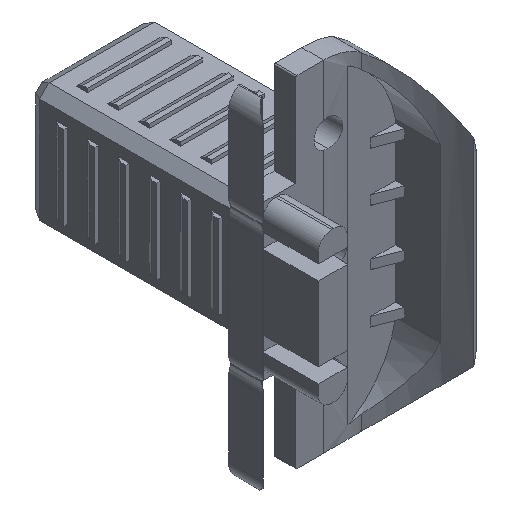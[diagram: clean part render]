
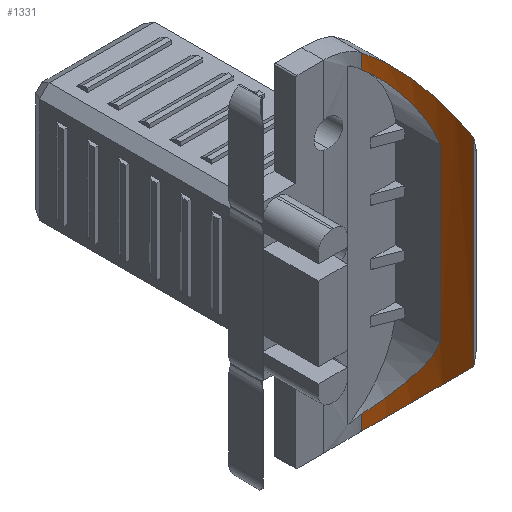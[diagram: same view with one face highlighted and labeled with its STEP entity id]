
A CAD part, isometric view. The second image highlights one B-rep face of the part: STEP entity #1331.
In plain terms, the highlighted cylindrical face has radius 18 mm (diameter 36 mm), a partial arc.
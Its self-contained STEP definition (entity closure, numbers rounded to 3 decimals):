
#116 = CARTESIAN_POINT ( 'NONE',  ( 4.5, 3.218, -26.468 ) ) ;
#179 = FACE_OUTER_BOUND ( 'NONE', #8314, .T. ) ;
#291 = CARTESIAN_POINT ( 'NONE',  ( 12.088, -7.25, -16. ) ) ;
#362 = CARTESIAN_POINT ( 'NONE',  ( 7.938, 0.339, -20.493 ) ) ;
#366 = ORIENTED_EDGE ( 'NONE', *, *, #4008, .F. ) ;
#425 = CARTESIAN_POINT ( 'NONE',  ( 6.053, 2.115, -22.755 ) ) ;
#510 = CARTESIAN_POINT ( 'NONE',  ( 9.574, -1.743, 17.409 ) ) ;
#542 = CARTESIAN_POINT ( 'NONE',  ( 8.706, -0.572, 19.215 ) ) ;
#630 = CARTESIAN_POINT ( 'NONE',  ( 4.5, 3.218, 24.08 ) ) ;
#682 = VERTEX_POINT ( 'NONE', #4405 ) ;
#1121 = EDGE_CURVE ( 'NONE', #5224, #5425, #9151, .T. ) ;
#1142 = CARTESIAN_POINT ( 'NONE',  ( 9.374, -1.454, -17.88 ) ) ;
#1205 = CARTESIAN_POINT ( 'NONE',  ( 4.91, 2.952, 23.763 ) ) ;
#1228 = CARTESIAN_POINT ( 'NONE',  ( 9.377, -1.459, 17.872 ) ) ;
#1254 = CARTESIAN_POINT ( 'NONE',  ( 6.039, 2.106, 22.738 ) ) ;
#1331 = ADVANCED_FACE ( 'NONE', ( #179 ), #4872, .F. ) ;
#1469 = CARTESIAN_POINT ( 'NONE',  ( 4.5, 3.218, 0. ) ) ;
#1538 = EDGE_CURVE ( 'NONE', #7077, #2773, #4990, .T. ) ;
#1561 = CARTESIAN_POINT ( 'NONE',  ( 12.088, -7.25, 16. ) ) ;
#1585 = CARTESIAN_POINT ( 'NONE',  ( 4.5, 3.218, 26.468 ) ) ;
#1738 = CARTESIAN_POINT ( 'NONE',  ( 10.55, -3.358, -13.853 ) ) ;
#1778 = CARTESIAN_POINT ( 'NONE',  ( 10.462, -3.195, -14.413 ) ) ;
#1812 = CARTESIAN_POINT ( 'NONE',  ( 8.938, -0.866, -18.785 ) ) ;
#1884 = CARTESIAN_POINT ( 'NONE',  ( 10.08, -2.532, -15.968 ) ) ;
#1903 = CARTESIAN_POINT ( 'NONE',  ( 6.385, 1.817, 22.38 ) ) ;
#1963 = CARTESIAN_POINT ( 'NONE',  ( 4.5, 3.218, 24.08 ) ) ;
#2084 = VERTEX_POINT ( 'NONE', #5272 ) ;
#2246 = DIRECTION ( 'NONE',  ( 0., 0., 1. ) ) ;
#2369 = DIRECTION ( 'NONE',  ( 1., 0., 0. ) ) ;
#2423 =( BOUNDED_CURVE ( )  B_SPLINE_CURVE ( 3, ( #1585, #3721, #8763, #1561 ),
 .UNSPECIFIED., .F., .F. ) 
 B_SPLINE_CURVE_WITH_KNOTS ( ( 4, 4 ),
 ( 0.576, 1.311 ),
 .UNSPECIFIED. ) 
 CURVE ( )  GEOMETRIC_REPRESENTATION_ITEM ( )  RATIONAL_B_SPLINE_CURVE ( ( 1., 0.956, 0.956, 1. ) ) 
 REPRESENTATION_ITEM ( '' )  );
#2579 = CARTESIAN_POINT ( 'NONE',  ( 10.082, -2.535, 15.964 ) ) ;
#2747 = DIRECTION ( 'NONE',  ( 0., 0., 1. ) ) ;
#2773 = VERTEX_POINT ( 'NONE', #116 ) ;
#2789 = EDGE_CURVE ( 'NONE', #2084, #4004, #2423, .T. ) ;
#2867 = VECTOR ( 'NONE', #8037, 1000. ) ;
#2929 = CARTESIAN_POINT ( 'NONE',  ( 10.55, -3.358, -13.853 ) ) ;
#3061 = CARTESIAN_POINT ( 'NONE',  ( 4.5, 3.218, -26.468 ) ) ;
#3095 =( BOUNDED_CURVE ( )  B_SPLINE_CURVE ( 3, ( #291, #6640, #8834, #3061 ),
 .UNSPECIFIED., .F., .T. ) 
 B_SPLINE_CURVE_WITH_KNOTS ( ( 4, 4 ),
 ( 1.831, 2.565 ),
 .UNSPECIFIED. ) 
 CURVE ( )  GEOMETRIC_REPRESENTATION_ITEM ( )  RATIONAL_B_SPLINE_CURVE ( ( 1., 0.956, 0.956, 1. ) ) 
 REPRESENTATION_ITEM ( '' )  );
#3155 = EDGE_CURVE ( 'NONE', #7077, #8516, #3305, .T. ) ;
#3267 = ORIENTED_EDGE ( 'NONE', *, *, #3155, .F. ) ;
#3305 = B_SPLINE_CURVE_WITH_KNOTS ( 'NONE', 3,
 ( #3753, #4482, #425, #7527, #362, #6104, #1812, #1142, #6809, #6167, #1884, #6062, #1778, #1738 ),
 .UNSPECIFIED., .F., .F.,
 ( 4, 2, 2, 2, 2, 2, 4 ),
 ( 0., 0.003, 0.007, 0.009, 0.01, 0.012, 0.014 ),
 .UNSPECIFIED. ) ;
#3721 = CARTESIAN_POINT ( 'NONE',  ( 8.282, 0.761, 24.011 ) ) ;
#3753 = CARTESIAN_POINT ( 'NONE',  ( 4.5, 3.218, -24.08 ) ) ;
#3973 = CARTESIAN_POINT ( 'NONE',  ( 9.926, -2.281, 16.455 ) ) ;
#4004 = VERTEX_POINT ( 'NONE', #7851 ) ;
#4008 = EDGE_CURVE ( 'NONE', #4004, #682, #7368, .T. ) ;
#4033 = CARTESIAN_POINT ( 'NONE',  ( 8.943, -0.873, 18.776 ) ) ;
#4052 = ORIENTED_EDGE ( 'NONE', *, *, #5612, .T. ) ;
#4390 = DIRECTION ( 'NONE',  ( 0., 0., -1. ) ) ;
#4405 = CARTESIAN_POINT ( 'NONE',  ( 12.088, -7.25, -16. ) ) ;
#4482 = CARTESIAN_POINT ( 'NONE',  ( 5.324, 2.683, -23.444 ) ) ;
#4638 = CARTESIAN_POINT ( 'NONE',  ( 10.55, -3.358, 13.853 ) ) ;
#4872 = CYLINDRICAL_SURFACE ( 'NONE', #5518, 18. ) ;
#4915 = VECTOR ( 'NONE', #2747, 1000. ) ;
#4990 = LINE ( 'NONE', #1469, #2867 ) ;
#5041 = CARTESIAN_POINT ( 'NONE',  ( 12.088, -7.25, -27.5 ) ) ;
#5156 = DIRECTION ( 'NONE',  ( 0., 0., -1. ) ) ;
#5210 = CARTESIAN_POINT ( 'NONE',  ( -5.308, -11.875, -27.5 ) ) ;
#5224 = VERTEX_POINT ( 'NONE', #4638 ) ;
#5272 = CARTESIAN_POINT ( 'NONE',  ( 4.5, 3.218, 26.468 ) ) ;
#5425 = VERTEX_POINT ( 'NONE', #630 ) ;
#5467 = CARTESIAN_POINT ( 'NONE',  ( 10.55, -3.358, 13.853 ) ) ;
#5518 = AXIS2_PLACEMENT_3D ( 'NONE', #5210, #2246, #2369 ) ;
#5520 = CARTESIAN_POINT ( 'NONE',  ( 10.463, -3.196, 14.412 ) ) ;
#5552 = CARTESIAN_POINT ( 'NONE',  ( 7.945, 0.331, 20.482 ) ) ;
#5612 = EDGE_CURVE ( 'NONE', #2084, #5425, #9107, .T. ) ;
#5942 = CARTESIAN_POINT ( 'NONE',  ( 4.5, 3.218, 0. ) ) ;
#6062 = CARTESIAN_POINT ( 'NONE',  ( 10.349, -2.991, -14.945 ) ) ;
#6104 = CARTESIAN_POINT ( 'NONE',  ( 8.7, -0.564, -19.225 ) ) ;
#6105 = ORIENTED_EDGE ( 'NONE', *, *, #8911, .F. ) ;
#6167 = CARTESIAN_POINT ( 'NONE',  ( 9.924, -2.278, -16.46 ) ) ;
#6478 = VECTOR ( 'NONE', #4390, 1000. ) ;
#6570 = VECTOR ( 'NONE', #5156, 1000. ) ;
#6640 = CARTESIAN_POINT ( 'NONE',  ( 10.929, -2.891, -20.359 ) ) ;
#6809 = CARTESIAN_POINT ( 'NONE',  ( 9.571, -1.739, -17.416 ) ) ;
#6863 = CARTESIAN_POINT ( 'NONE',  ( 10.35, -2.992, 14.942 ) ) ;
#6885 = ORIENTED_EDGE ( 'NONE', *, *, #1121, .F. ) ;
#6957 = CARTESIAN_POINT ( 'NONE',  ( 5.301, 2.674, 23.429 ) ) ;
#7077 = VERTEX_POINT ( 'NONE', #8183 ) ;
#7163 = ORIENTED_EDGE ( 'NONE', *, *, #1538, .T. ) ;
#7368 = LINE ( 'NONE', #5041, #6478 ) ;
#7527 = CARTESIAN_POINT ( 'NONE',  ( 7.36, 0.943, -21.28 ) ) ;
#7752 = ORIENTED_EDGE ( 'NONE', *, *, #8706, .F. ) ;
#7851 = CARTESIAN_POINT ( 'NONE',  ( 12.088, -7.25, 16. ) ) ;
#8037 = DIRECTION ( 'NONE',  ( 0., 0., -1. ) ) ;
#8183 = CARTESIAN_POINT ( 'NONE',  ( 4.5, 3.218, -24.08 ) ) ;
#8201 = ORIENTED_EDGE ( 'NONE', *, *, #2789, .F. ) ;
#8279 = CARTESIAN_POINT ( 'NONE',  ( 7.368, 0.936, 21.27 ) ) ;
#8314 = EDGE_LOOP ( 'NONE', ( #6885, #6105, #3267, #7163, #7752, #366, #8201, #4052 ) ) ;
#8516 = VERTEX_POINT ( 'NONE', #2929 ) ;
#8706 = EDGE_CURVE ( 'NONE', #682, #2773, #3095, .T. ) ;
#8763 = CARTESIAN_POINT ( 'NONE',  ( 10.929, -2.891, 20.359 ) ) ;
#8834 = CARTESIAN_POINT ( 'NONE',  ( 8.282, 0.761, -24.011 ) ) ;
#8911 = EDGE_CURVE ( 'NONE', #8516, #5224, #9148, .T. ) ;
#9107 = LINE ( 'NONE', #5942, #6570 ) ;
#9132 = CARTESIAN_POINT ( 'NONE',  ( 10.55, -3.358, -27.5 ) ) ;
#9148 = LINE ( 'NONE', #9132, #4915 ) ;
#9151 = B_SPLINE_CURVE_WITH_KNOTS ( 'NONE', 3,
 ( #5467, #5520, #6863, #2579, #3973, #510, #1228, #4033, #542, #5552, #8279, #1903, #1254, #6957, #1205, #1963 ),
 .UNSPECIFIED., .F., .F.,
 ( 4, 2, 2, 2, 2, 2, 2, 4 ),
 ( 0., 0.002, 0.003, 0.005, 0.007, 0.01, 0.012, 0.014 ),
 .UNSPECIFIED. ) ;
